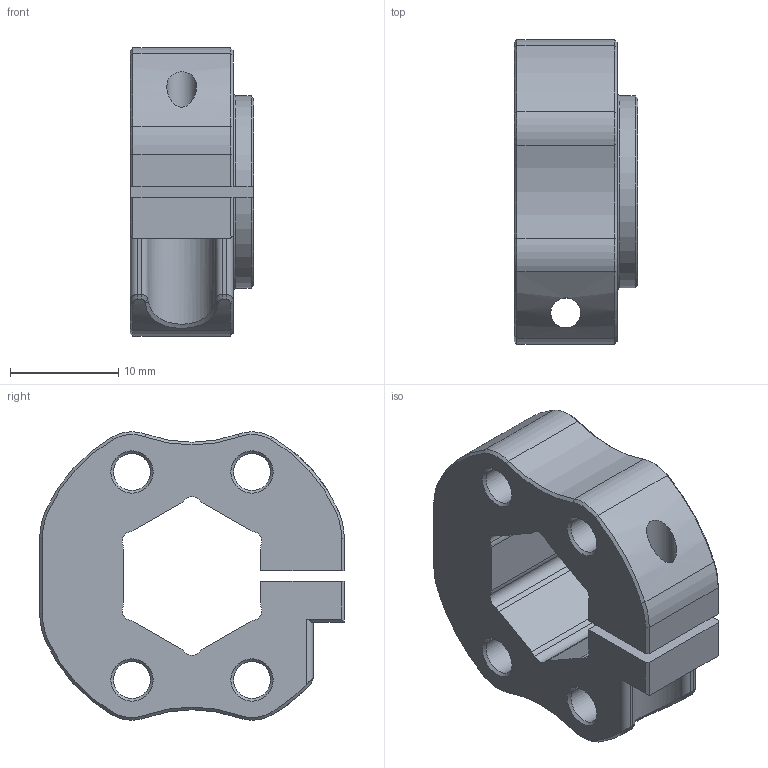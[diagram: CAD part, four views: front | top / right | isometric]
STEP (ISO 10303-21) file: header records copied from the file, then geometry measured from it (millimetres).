
FILE_DESCRIPTION(/* description */ ('Part 1'),/* implementation_level */ '2;1');
FILE_NAME(/* name */ 'NectorHub_ half inch hex.step',/* time_stamp */ '2026-08-01T11:10:03-04:00',/* author */ (''),/* organization */ (''),/* preprocessor_version */ 'ST-DEVELOPER v20.1',/* originating_system */ 'Autodesk Translation Framework v15.8.0.0',/* authorisation */ '');
FILE_SCHEMA (('AUTOMOTIVE_DESIGN { 1 0 10303 214 3 1 1 }'));
Length unit declared in the file: inch
Products named in the file (1): 2026-08-01-11-10-03-388
Bounding box: 11.43 x 28.19 x 26.7 mm (x, y, z)
Volume: 4261.2 mm3; surface area: 3011.3 mm2
Topology: 1 solids, 1 shells, 116 faces, 297 edges, 183 vertices
Faces by surface type: cylinder 43, cone 36, plane 28, bspline 9
Full cylindrical faces by diameter (mm): 2.769 x1, 3.416 x4, 3.658 x1
Entity records: 3909 total; most frequent: CARTESIAN_POINT 1014, DIRECTION 609, ORIENTED_EDGE 594, EDGE_CURVE 297, AXIS2_PLACEMENT_3D 226, VERTEX_POINT 183, LINE 157, VECTOR 157
